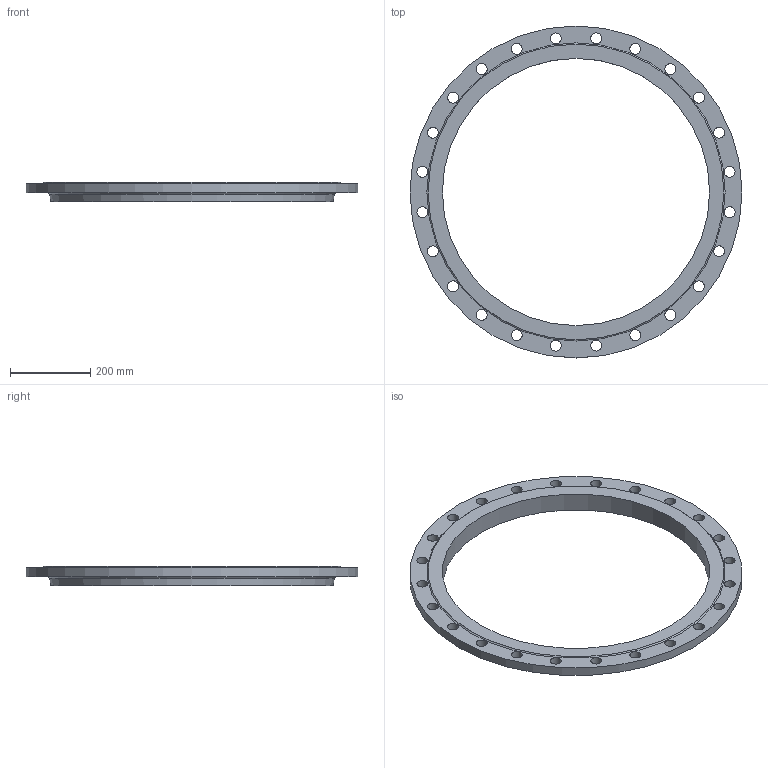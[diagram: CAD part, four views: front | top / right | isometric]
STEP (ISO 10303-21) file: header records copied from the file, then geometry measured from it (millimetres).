
FILE_DESCRIPTION(/* description */ (''),/* implementation_level */ '2;1');
FILE_NAME(/* name */ 'C:\Users\D\Documents\Inventor\HP\JIS\フランジ\JIS 5k soh rf\jis5k-soh-rf-650.stp',/* time_stamp */ '2024-08-29T14:26:03+09:00',/* author */ ('D'),/* organization */ (''),/* preprocessor_version */ 'ST-DEVELOPER v18',/* originating_system */ 'Autodesk Inventor 2020',/* authorisation */ '');
FILE_SCHEMA (('AUTOMOTIVE_DESIGN { 1 0 10303 214 3 1 1 }'));
Length unit declared in the file: millimetre
Products named in the file (1): jis5k-soh-ff-450
Bounding box: 825 x 825 x 48 mm (x, y, z)
Volume: 5231503.1 mm3; surface area: 598692.1 mm2
Topology: 1 solids, 1 shells, 33 faces, 95 edges, 66 vertices
Faces by surface type: cylinder 26, plane 4, torus 2, cone 1
Full cylindrical faces by diameter (mm): 27 x24, 664 x1, 825 x1
Entity records: 1282 total; most frequent: DIRECTION 231, CARTESIAN_POINT 195, ORIENTED_EDGE 190, AXIS2_PLACEMENT_3D 102, EDGE_CURVE 95, EDGE_LOOP 85, CIRCLE 68, VERTEX_POINT 66
